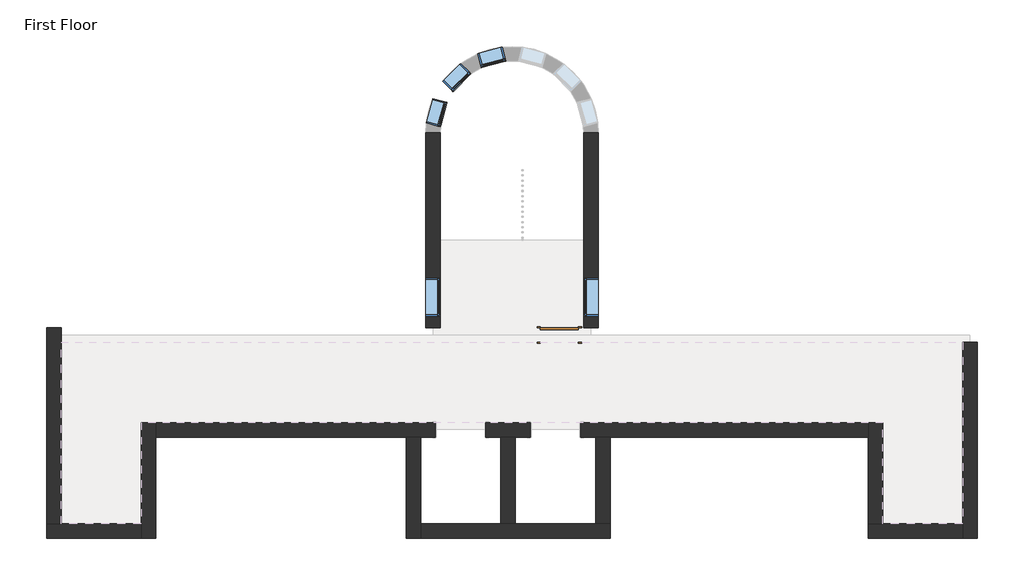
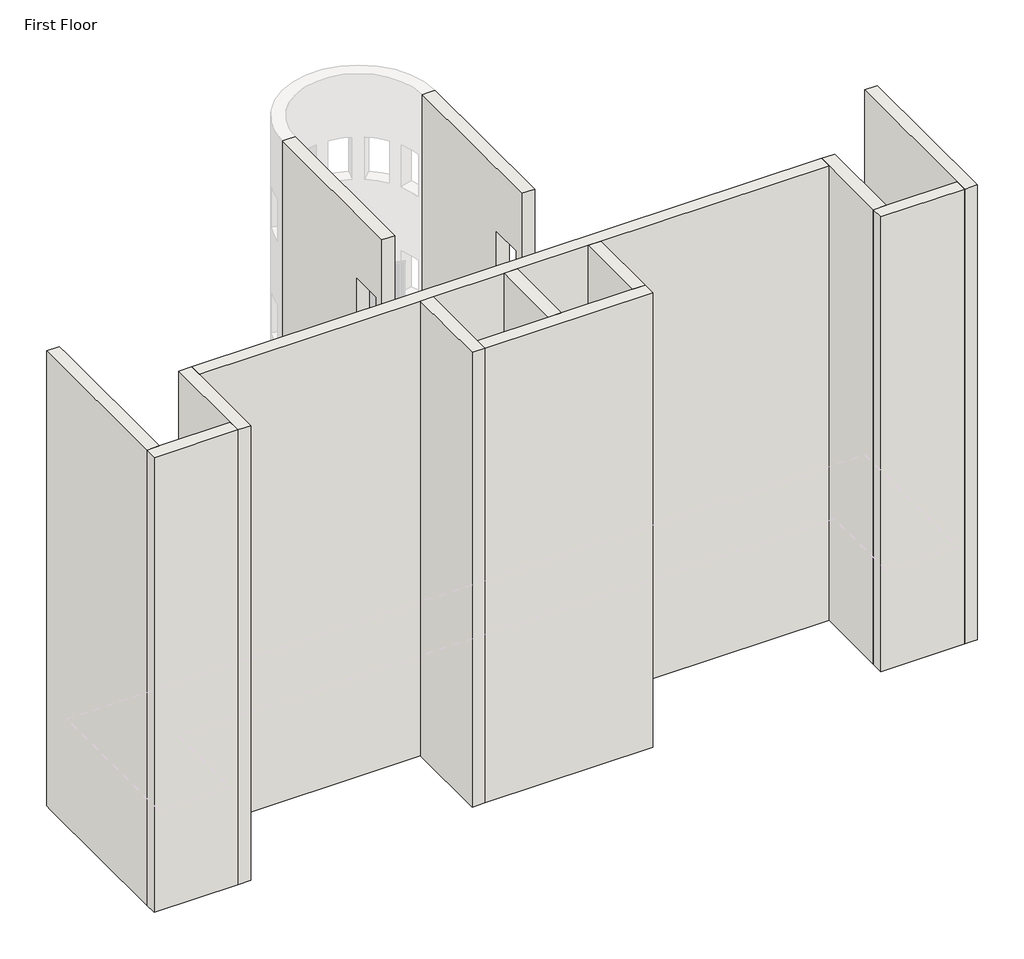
# One storey, part 1 of 4: 13 walls, 5 windows, 1 door.
"""IFC4 building model written with IfcOpenShell, lengths in millimetres."""

from ifc_helpers import new_model, si_unit, frame, origin, origin_with_axes, place, context, project, spatial, polyline, outline, extrude, faceted_brep, transform, mapped, element, save
from components import m_single_flush_0915_x_2134mm_1eac8bb1, m_fixed_0610_x_1220mm_2c28ef1d, m_fixed_0915_x_1220mm_bde29121

model = new_model("IFC4")

# Units and contexts
model_context = context("Model", 3, world=origin())
ifc_project = project(units=[si_unit("LENGTHUNIT", "METRE", prefix="MILLI")], contexts=[model_context])

# Site, building, storey
site = spatial("IfcSite", under=ifc_project)
building = spatial("IfcBuilding", under=site)
storey = spatial("IfcBuildingStorey", under=building, Name="First Floor", Elevation=0.0)

# Door
placement = place(None, origin())
m_single_flush_0915_x_2134mm_shape = m_single_flush_0915_x_2134mm_1eac8bb1(model_context)
element("IfcDoor", 1, ObjectType="M_Single-Flush : 0915 x 2134mm", at=placement, inside=storey, context=model_context, shape_type="MappedRepresentation", body=[
    mapped(m_single_flush_0915_x_2134mm_shape, transform((3632.0924567, -764.7443399, 0.0), x_axis=(1.0, 0.0, 0.0), y_axis=(0.0, 1.0, 0.0), z_axis=(0.0, 0.0, 1.0))),
])

# Walls
element("IfcWall", 2, ObjectType="Exterior - Brick on Mtl. Stud", at=placement, inside=storey, context=model_context, shape_type="Brep", body=[
    faceted_brep([(-6448.9075433, -2875.7443399, 0.0), (-6448.9075433, -5314.1443399, 0.0), (-6448.9075433, -5664.1443399, 0.0), (-6448.9075433, -5664.1443399, 13107.0), (-6448.9075433, -5314.1443399, 13107.0), (-6448.9075433, -2875.7443399, 13107.0), (-6098.9075433, -2875.7443399, 0.0), (-6098.9075433, -2875.7443399, 13107.0), (-6098.9075433, -3225.7443399, 13107.0), (-6098.9075433, -5664.1443399, 13107.0), (-6098.9075433, -5664.1443399, 0.0), (-6098.9075433, -3225.7443399, 0.0)], [[[0, 1, 2, 3, 4, 5]], [[6, 7, 8, 9, 10, 11]], [[2, 1, 0, 6, 11, 10]], [[5, 4, 3, 9, 8, 7]], [[3, 2, 10, 9]], [[0, 5, 7, 6]]]),
])
element("IfcWall", 3, ObjectType="Exterior - Brick on Mtl. Stud", at=placement, inside=storey, context=model_context, shape_type="Brep", body=[
    faceted_brep([(-6448.9075433, -5314.1443399, 0.0), (-8384.9075433, -5314.1443399, 0.0), (-8734.9075433, -5314.1443399, 0.0), (-8734.9075433, -5314.1443399, 13107.0), (-8384.9075433, -5314.1443399, 13107.0), (-6448.9075433, -5314.1443399, 13107.0), (-6448.9075433, -5664.1443399, 0.0), (-6448.9075433, -5664.1443399, 13107.0), (-8734.9075433, -5664.1443399, 13107.0), (-8734.9075433, -5664.1443399, 0.0)], [[[0, 1, 2, 3, 4, 5]], [[6, 7, 8, 9]], [[2, 1, 0, 6, 9]], [[5, 4, 3, 8, 7]], [[0, 5, 7, 6]], [[3, 2, 9, 8]]]),
])
element("IfcWall", 4, ObjectType="Exterior - Brick on Mtl. Stud", at=placement, inside=storey, context=model_context, shape_type="Brep", body=[
    faceted_brep([(-8384.9075433, -5314.1443399, 0.0), (-8384.9075433, -939.7443399, 0.0), (-8384.9075433, -774.7443399, 0.0), (-8384.9075433, -589.7443399, 0.0), (-8384.9075433, -589.7443399, 13107.0), (-8384.9075433, -939.7443399, 13107.0), (-8384.9075433, -5314.1443399, 13107.0), (-8734.9075433, -5314.1443399, 0.0), (-8734.9075433, -5314.1443399, 13107.0), (-8734.9075433, -589.7443399, 13107.0), (-8734.9075433, -589.7443399, 0.0), (-8734.9075433, -774.7443399, 0.0), (-8549.9075433, -5314.1443399, 0.0), (-8549.9075433, -589.7443399, 0.0), (-8549.9075433, -774.7443399, 0.0)], [[[0, 1, 2, 3, 4, 5, 6]], [[7, 8, 9, 10, 11]], [[6, 5, 4, 9, 8]], [[0, 6, 8, 7, 12]], [[4, 3, 13, 10, 9]], [[12, 7, 11, 14]], [[3, 2, 14, 13]], [[14, 11, 10, 13]], [[2, 1, 0, 12, 14]]]),
])
element("IfcWall", 5, ObjectType="Exterior - Brick on Mtl. Stud", at=placement, inside=storey, context=model_context, shape_type="Brep", body=[
    faceted_brep([(13363.0924567, -939.7443399, 0.0), (13363.0924567, -5314.1443399, 0.0), (13363.0924567, -5479.1443399, 0.0), (13363.0924567, -5664.1443399, 0.0), (13363.0924567, -5664.1443399, 13107.0), (13363.0924567, -5314.1443399, 13107.0), (13363.0924567, -939.7443399, 13107.0), (13713.0924567, -939.7443399, 0.0), (13713.0924567, -939.7443399, 13107.0), (13713.0924567, -5664.1443399, 13107.0), (13713.0924567, -5664.1443399, 0.0), (13713.0924567, -5479.1443399, 0.0), (13528.0924567, -939.7443399, 0.0), (13528.0924567, -5664.1443399, 0.0), (13528.0924567, -5479.1443399, 0.0)], [[[0, 1, 2, 3, 4, 5, 6]], [[7, 8, 9, 10, 11]], [[6, 5, 4, 9, 8]], [[0, 6, 8, 7, 12]], [[4, 3, 13, 10, 9]], [[12, 7, 11, 14]], [[3, 2, 14, 13]], [[14, 11, 10, 13]], [[2, 1, 0, 12, 14]]]),
])
element("IfcWall", 6, ObjectType="Exterior - Brick on Mtl. Stud", at=placement, inside=storey, context=model_context, shape_type="Brep", body=[
    faceted_brep([(13363.0924567, -5314.1443399, 0.0), (11427.0924567, -5314.1443399, 0.0), (11077.0924567, -5314.1443399, 0.0), (11077.0924567, -5314.1443399, 13107.0), (11427.0924567, -5314.1443399, 13107.0), (13363.0924567, -5314.1443399, 13107.0), (13363.0924567, -5664.1443399, 0.0), (13363.0924567, -5664.1443399, 13107.0), (11077.0924567, -5664.1443399, 13107.0), (11077.0924567, -5664.1443399, 0.0)], [[[0, 1, 2, 3, 4, 5]], [[6, 7, 8, 9]], [[2, 1, 0, 6, 9]], [[5, 4, 3, 8, 7]], [[0, 5, 7, 6]], [[3, 2, 9, 8]]]),
])
element("IfcWall", 7, ObjectType="Exterior - Brick on Mtl. Stud", at=placement, inside=storey, context=model_context, shape_type="Brep", body=[
    faceted_brep([(11427.0924567, -5314.1443399, 0.0), (11427.0924567, -2875.7443399, 0.0), (11427.0924567, -2875.7443399, 13107.0), (11427.0924567, -5314.1443399, 13107.0), (11077.0924567, -5314.1443399, 0.0), (11077.0924567, -5314.1443399, 13107.0), (11077.0924567, -3225.7443399, 13107.0), (11077.0924567, -2875.7443399, 13107.0), (11077.0924567, -2875.7443399, 0.0), (11077.0924567, -3225.7443399, 0.0)], [[[0, 1, 2, 3]], [[4, 5, 6, 7, 8, 9]], [[1, 0, 4, 9, 8]], [[3, 2, 7, 6, 5]], [[0, 3, 5, 4]], [[2, 1, 8, 7]]]),
])
element("IfcWall", 8, ObjectType="Exterior - Brick on Mtl. Stud", at=placement, inside=storey, context=model_context, shape_type="Brep", body=[
    faceted_brep([(2928.0924567, -2875.7443399, 0.0), (1862.0924567, -2875.7443399, 0.0), (1862.0924567, -2875.7443399, 2134.0), (642.0924567, -2875.7443399, 2134.0), (642.0924567, -2875.7443399, 0.0), (-6098.9075433, -2875.7443399, 0.0), (-6098.9075433, -2875.7443399, 13107.0), (11077.0924567, -2875.7443399, 13107.0), (11077.0924567, -2875.7443399, 0.0), (4148.0924567, -2875.7443399, 0.0), (4148.0924567, -2875.7443399, 2134.0), (2928.0924567, -2875.7443399, 2134.0), (642.0924567, -2875.7443399, 11278.0), (642.0924567, -2875.7443399, 9144.0), (1862.0924567, -2875.7443399, 9144.0), (1862.0924567, -2875.7443399, 11278.0), (4148.0924567, -2875.7443399, 11278.0), (2928.0924567, -2875.7443399, 11278.0), (2928.0924567, -2875.7443399, 9144.0), (4148.0924567, -2875.7443399, 9144.0), (642.0924567, -2875.7443399, 5182.0), (642.0924567, -2875.7443399, 3048.0), (1862.0924567, -2875.7443399, 3048.0), (1862.0924567, -2875.7443399, 5182.0), (4148.0924567, -2875.7443399, 5182.0), (2928.0924567, -2875.7443399, 5182.0), (2928.0924567, -2875.7443399, 3048.0), (4148.0924567, -2875.7443399, 3048.0), (642.0924567, -2875.7443399, 8230.0), (642.0924567, -2875.7443399, 6096.0), (1862.0924567, -2875.7443399, 6096.0), (1862.0924567, -2875.7443399, 8230.0), (4148.0924567, -2875.7443399, 8230.0), (2928.0924567, -2875.7443399, 8230.0), (2928.0924567, -2875.7443399, 6096.0), (4148.0924567, -2875.7443399, 6096.0), (1862.0924567, -3225.7443399, 2134.0), (1862.0924567, -3225.7443399, 0.0), (2220.0924567, -3225.7443399, 0.0), (2570.0924567, -3225.7443399, 0.0), (2928.0924567, -3225.7443399, 0.0), (2928.0924567, -3225.7443399, 2134.0), (4148.0924567, -3225.7443399, 2134.0), (4148.0924567, -3225.7443399, 0.0), (4506.0924567, -3225.7443399, 0.0), (4856.0924567, -3225.7443399, 0.0), (11077.0924567, -3225.7443399, 0.0), (11077.0924567, -3225.7443399, 13107.0), (4856.0924567, -3225.7443399, 13107.0), (4506.0924567, -3225.7443399, 13107.0), (2570.0924567, -3225.7443399, 13107.0), (2220.0924567, -3225.7443399, 13107.0), (284.0924567, -3225.7443399, 13107.0), (-65.9075433, -3225.7443399, 13107.0), (-6098.9075433, -3225.7443399, 13107.0), (-6098.9075433, -3225.7443399, 0.0), (-65.9075433, -3225.7443399, 0.0), (284.0924567, -3225.7443399, 0.0), (642.0924567, -3225.7443399, 0.0), (642.0924567, -3225.7443399, 2134.0), (642.0924567, -3225.7443399, 11278.0), (1862.0924567, -3225.7443399, 11278.0), (1862.0924567, -3225.7443399, 9144.0), (642.0924567, -3225.7443399, 9144.0), (4148.0924567, -3225.7443399, 11278.0), (4148.0924567, -3225.7443399, 9144.0), (2928.0924567, -3225.7443399, 9144.0), (2928.0924567, -3225.7443399, 11278.0), (642.0924567, -3225.7443399, 5182.0), (1862.0924567, -3225.7443399, 5182.0), (1862.0924567, -3225.7443399, 3048.0), (642.0924567, -3225.7443399, 3048.0), (4148.0924567, -3225.7443399, 5182.0), (4148.0924567, -3225.7443399, 3048.0), (2928.0924567, -3225.7443399, 3048.0), (2928.0924567, -3225.7443399, 5182.0), (642.0924567, -3225.7443399, 8230.0), (1862.0924567, -3225.7443399, 8230.0), (1862.0924567, -3225.7443399, 6096.0), (642.0924567, -3225.7443399, 6096.0), (4148.0924567, -3225.7443399, 8230.0), (4148.0924567, -3225.7443399, 6096.0), (2928.0924567, -3225.7443399, 6096.0), (2928.0924567, -3225.7443399, 8230.0)], [[[0, 1, 2, 3, 4, 5, 6, 7, 8, 9, 10, 11], [12, 13, 14, 15], [16, 17, 18, 19], [20, 21, 22, 23], [24, 25, 26, 27], [28, 29, 30, 31], [32, 33, 34, 35]], [[36, 37, 38, 39, 40, 41, 42, 43, 44, 45, 46, 47, 48, 49, 50, 51, 52, 53, 54, 55, 56, 57, 58, 59], [60, 61, 62, 63], [64, 65, 66, 67], [68, 69, 70, 71], [72, 73, 74, 75], [76, 77, 78, 79], [80, 81, 82, 83]], [[9, 8, 46, 45, 44, 43]], [[58, 57, 56, 55, 5, 4]], [[40, 39, 38, 37, 1, 0]], [[7, 6, 54, 53, 52, 51, 50, 49, 48, 47]], [[6, 5, 55, 54]], [[8, 7, 47, 46]], [[43, 42, 10, 9]], [[41, 40, 0, 11]], [[42, 41, 11, 10]], [[4, 3, 59, 58]], [[2, 1, 37, 36]], [[3, 2, 36, 59]], [[13, 12, 60, 63]], [[14, 13, 63, 62]], [[15, 14, 62, 61]], [[12, 15, 61, 60]], [[65, 64, 16, 19]], [[66, 65, 19, 18]], [[67, 66, 18, 17]], [[64, 67, 17, 16]], [[21, 20, 68, 71]], [[22, 21, 71, 70]], [[23, 22, 70, 69]], [[20, 23, 69, 68]], [[73, 72, 24, 27]], [[74, 73, 27, 26]], [[75, 74, 26, 25]], [[72, 75, 25, 24]], [[29, 28, 76, 79]], [[30, 29, 79, 78]], [[31, 30, 78, 77]], [[28, 31, 77, 76]], [[81, 80, 32, 35]], [[82, 81, 35, 34]], [[83, 82, 34, 33]], [[80, 83, 33, 32]]]),
])
element("IfcWall", 9, ObjectType="Exterior - Brick on Mtl. Stud", at=placement, inside=storey, context=model_context, shape_type="SweptSolid", body=[
    extrude(outline(polyline([(4112.2556601, 0.0), (-589.7443399, 0.0), (-589.7443399, 13107.0), (4112.2556601, 13107.0), (4112.2556601, 0.0)]), holes=[polyline([(607.7556601, 915.0), (607.7556601, 2135.0), (-307.2443399, 2135.0), (-307.2443399, 915.0), (607.7556601, 915.0)]), polyline([(607.7556601, 10059.0), (607.7556601, 11279.0), (-307.2443399, 11279.0), (-307.2443399, 10059.0), (607.7556601, 10059.0)]), polyline([(607.7556601, 3963.0), (607.7556601, 5183.0), (-307.2443399, 5183.0), (-307.2443399, 3963.0), (607.7556601, 3963.0)]), polyline([(607.7556601, 7011.0), (607.7556601, 8231.0), (-307.2443399, 8231.0), (-307.2443399, 7011.0), (607.7556601, 7011.0)])]), frame((409.0924567, 0.0, 0.0), z_axis=(1.0, 0.0, 0.0), x_axis=(0.0, 1.0, 0.0)), (0.0, 0.0, 1.0), 350.0),
])
element("IfcWall", 10, ObjectType="Exterior - Brick on Mtl. Stud", at=placement, inside=storey, context=model_context, shape_type="SweptSolid", body=[
    extrude(outline(polyline([(-589.7443399, 0.0), (-589.7443399, 13107.0), (4112.2556601, 13107.0), (4112.2556601, 0.0), (-589.7443399, 0.0)]), holes=[polyline([(-307.2443399, 915.0), (607.7556601, 915.0), (607.7556601, 2135.0), (-307.2443399, 2135.0), (-307.2443399, 915.0)]), polyline([(-307.2443399, 10059.0), (607.7556601, 10059.0), (607.7556601, 11279.0), (-307.2443399, 11279.0), (-307.2443399, 10059.0)]), polyline([(-307.2443399, 3963.0), (607.7556601, 3963.0), (607.7556601, 5183.0), (-307.2443399, 5183.0), (-307.2443399, 3963.0)]), polyline([(-307.2443399, 7011.0), (607.7556601, 7011.0), (607.7556601, 8231.0), (-307.2443399, 8231.0), (-307.2443399, 7011.0)])]), frame((4219.0924567, 0.0, 0.0), z_axis=(1.0, 0.0, 0.0), x_axis=(0.0, 1.0, 0.0)), (0.0, 0.0, 1.0), 350.0),
])
element("IfcWall", 11, ObjectType="Exterior - Brick on Mtl. Stud", at=placement, inside=storey, context=model_context, shape_type="Brep", body=[
    faceted_brep([(-65.9075433, -3225.7443399, 0.0), (-65.9075433, -5664.1443399, 0.0), (-65.9075433, -5664.1443399, 13107.0), (-65.9075433, -3225.7443399, 13107.0), (284.0924567, -3225.7443399, 0.0), (284.0924567, -3225.7443399, 13107.0), (284.0924567, -5314.1443399, 13107.0), (284.0924567, -5664.1443399, 13107.0), (284.0924567, -5664.1443399, 0.0), (284.0924567, -5314.1443399, 0.0)], [[[0, 1, 2, 3]], [[4, 5, 6, 7, 8, 9]], [[1, 0, 4, 9, 8]], [[3, 2, 7, 6, 5]], [[0, 3, 5, 4]], [[2, 1, 8, 7]]]),
])
element("IfcWall", 12, ObjectType="Exterior - Brick on Mtl. Stud", at=placement, inside=storey, context=model_context, shape_type="Brep", body=[
    faceted_brep([(284.0924567, -5664.1443399, 0.0), (4856.0924567, -5664.1443399, 0.0), (4856.0924567, -5664.1443399, 13107.0), (284.0924567, -5664.1443399, 13107.0), (284.0924567, -5314.1443399, 0.0), (284.0924567, -5314.1443399, 13107.0), (2220.0924567, -5314.1443399, 13107.0), (2570.0924567, -5314.1443399, 13107.0), (4506.0924567, -5314.1443399, 13107.0), (4856.0924567, -5314.1443399, 13107.0), (4856.0924567, -5314.1443399, 0.0), (4506.0924567, -5314.1443399, 0.0), (2570.0924567, -5314.1443399, 0.0), (2220.0924567, -5314.1443399, 0.0)], [[[0, 1, 2, 3]], [[4, 5, 6, 7, 8, 9, 10, 11, 12, 13]], [[1, 0, 4, 13, 12, 11, 10]], [[3, 2, 9, 8, 7, 6, 5]], [[0, 3, 5, 4]], [[2, 1, 10, 9]]]),
])
element("IfcWall", 13, ObjectType="Exterior - Brick on Mtl. Stud", at=placement, inside=storey, context=model_context, shape_type="SweptSolid", body=[
    extrude(outline(polyline([(4856.0924567, -3225.7443399), (4856.0924567, -5314.1443399), (4506.0924567, -5314.1443399), (4506.0924567, -3225.7443399), (4856.0924567, -3225.7443399)])), origin_with_axes(), (0.0, 0.0, 1.0), 13107.0),
])
element("IfcWall", 14, ObjectType="Exterior - Brick on Mtl. Stud", at=placement, inside=storey, context=model_context, shape_type="SweptSolid", body=[
    extrude(outline(polyline([(2570.0924567, -3225.7443399), (2570.0924567, -5314.1443399), (2220.0924567, -5314.1443399), (2220.0924567, -3225.7443399), (2570.0924567, -3225.7443399)])), origin_with_axes(), (0.0, 0.0, 1.0), 13107.0),
])

# Windows
m_fixed_0610_x_1220mm_shape = m_fixed_0610_x_1220mm_2c28ef1d(model_context)
element("IfcWindow", 15, ObjectType="M_Fixed : 0610 x 1220mm", at=placement, inside=storey, context=model_context, shape_type="MappedRepresentation", body=[
    mapped(m_fixed_0610_x_1220mm_shape, transform((658.1639152, 4602.8514842, 0.0), x_axis=(-0.2588190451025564, -0.9659258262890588, 0.0), y_axis=(0.9659258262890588, -0.2588190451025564, 0.0), z_axis=(0.0, 0.0, 1.0))),
])
element("IfcWindow", 16, ObjectType="M_Fixed : 0610 x 1220mm", at=placement, inside=storey, context=model_context, shape_type="MappedRepresentation", body=[
    mapped(m_fixed_0610_x_1220mm_shape, transform((1998.4966326, 5943.1842016, 0.0), x_axis=(-0.9659258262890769, -0.2588190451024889, 0.0), y_axis=(0.2588190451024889, -0.9659258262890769, 0.0), z_axis=(0.0, 0.0, 1.0))),
])
element("IfcWindow", 17, ObjectType="M_Fixed : 0610 x 1220mm", at=placement, inside=storey, context=model_context, shape_type="MappedRepresentation", body=[
    mapped(m_fixed_0610_x_1220mm_shape, transform((1148.7597393, 5452.5883775, 0.0), x_axis=(-0.7071067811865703, -0.7071067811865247, 0.0), y_axis=(0.7071067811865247, -0.7071067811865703, 0.0), z_axis=(0.0, 0.0, 1.0))),
])
m_fixed_0915_x_1220mm_shape = m_fixed_0915_x_1220mm_bde29121(model_context)
element("IfcWindow", 18, ObjectType="M_Fixed : 0915 x 1220mm", at=placement, inside=storey, context=model_context, shape_type="MappedRepresentation", body=[
    mapped(m_fixed_0915_x_1220mm_shape, transform((571.0924567, 150.2556601, 0.0), x_axis=(0.0, -1.0, 0.0), y_axis=(1.0, 0.0, 0.0), z_axis=(0.0, 0.0, 1.0))),
])
element("IfcWindow", 19, ObjectType="M_Fixed : 0915 x 1220mm", at=placement, inside=storey, context=model_context, shape_type="MappedRepresentation", body=[
    mapped(m_fixed_0915_x_1220mm_shape, transform((4407.0924567, 150.2556601, 0.0), x_axis=(0.0, 1.0, 0.0), y_axis=(-1.0, 0.0, 0.0), z_axis=(0.0, 0.0, 1.0))),
])

save(model, "model.ifc")
